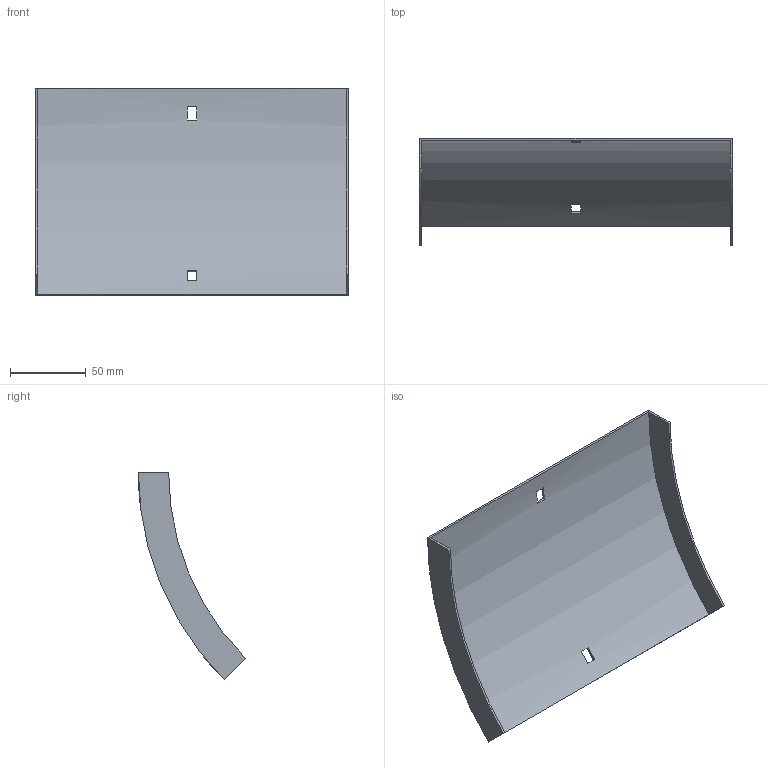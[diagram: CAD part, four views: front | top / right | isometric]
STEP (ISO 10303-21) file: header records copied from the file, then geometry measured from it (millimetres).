
FILE_DESCRIPTION (( 'STEP AP214' ), '1' );
FILE_NAME ('34N1I200.step', '2025-02-21T09:16:26', ( '' ), ( '' ), 'SwSTEP 2.0', 'SolidWorks 2023', '' );
FILE_SCHEMA (( 'AUTOMOTIVE_DESIGN' ));
Length unit declared in the file: millimetre
Products named in the file (1): 34N1I200
Bounding box: 207 x 70.96 x 137.18 mm (x, y, z)
Volume: 54938.8 mm3; surface area: 74488.8 mm2
Topology: 1 solids, 1 shells, 18 faces, 48 edges, 32 vertices
Faces by surface type: plane 14, cylinder 4
Entity records: 599 total; most frequent: DIRECTION 102, CARTESIAN_POINT 99, ORIENTED_EDGE 96, EDGE_CURVE 48, AXIS2_PLACEMENT_3D 35, VECTOR 32, LINE 32, VERTEX_POINT 32
